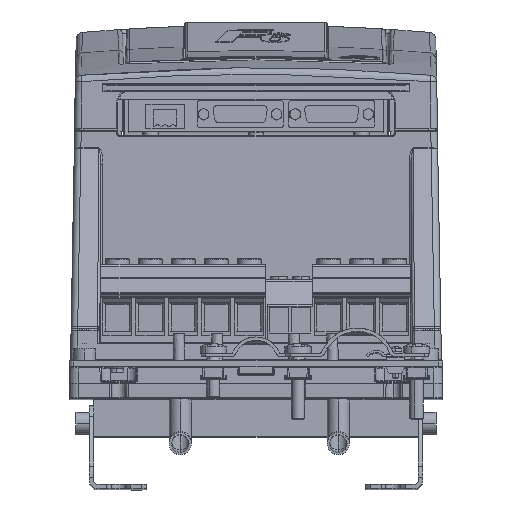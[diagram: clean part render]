
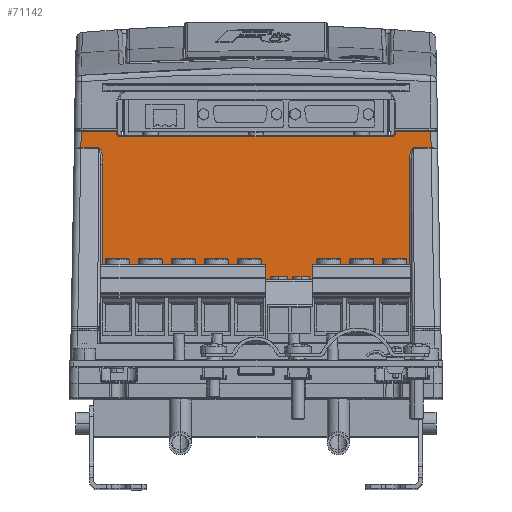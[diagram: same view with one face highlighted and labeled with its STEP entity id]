
A CAD part, top view. The second image highlights one B-rep face of the part: STEP entity #71142.
In plain terms, the highlighted planar face has unit normal (0, 0, 1).
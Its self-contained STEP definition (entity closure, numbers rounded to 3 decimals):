
#291 = ORIENTED_EDGE ( 'NONE', *, *, #23223, .T. ) ;
#407 = ORIENTED_EDGE ( 'NONE', *, *, #13771, .T. ) ;
#886 = VECTOR ( 'NONE', #52997, 1000. ) ;
#1143 = ORIENTED_EDGE ( 'NONE', *, *, #99331, .T. ) ;
#5328 = CARTESIAN_POINT ( 'NONE',  ( -62.5, 46.6, 124. ) ) ;
#5692 = LINE ( 'NONE', #72992, #55053 ) ;
#6491 = LINE ( 'NONE', #7705, #56243 ) ;
#7251 = LINE ( 'NONE', #83238, #97216 ) ;
#7599 = CARTESIAN_POINT ( 'NONE',  ( 63.5, 89.215, 124. ) ) ;
#7705 = CARTESIAN_POINT ( 'NONE',  ( -69.763, 89.215, 124. ) ) ;
#8970 = CARTESIAN_POINT ( 'NONE',  ( 69.763, 33.786, 124. ) ) ;
#9515 = VERTEX_POINT ( 'NONE', #74022 ) ;
#10559 = VECTOR ( 'NONE', #91632, 1000. ) ;
#10697 = CARTESIAN_POINT ( 'NONE',  ( -63.5, 89.215, 124. ) ) ;
#13169 = ORIENTED_EDGE ( 'NONE', *, *, #76622, .F. ) ;
#13602 = CARTESIAN_POINT ( 'NONE',  ( -69.763, 38.164, 124. ) ) ;
#13771 = EDGE_CURVE ( 'NONE', #120611, #57109, #35529, .T. ) ;
#14279 = VECTOR ( 'NONE', #19086, 1000. ) ;
#16217 = CARTESIAN_POINT ( 'NONE',  ( 49.191, 46.6, 124. ) ) ;
#17865 = LINE ( 'NONE', #45875, #14279 ) ;
#18412 = CARTESIAN_POINT ( 'NONE',  ( -79.765, 41.234, 124. ) ) ;
#18460 = DIRECTION ( 'NONE',  ( 0., 1., 0. ) ) ;
#19086 = DIRECTION ( 'NONE',  ( 1., 0., 0. ) ) ;
#19980 = FACE_OUTER_BOUND ( 'NONE', #31370, .T. ) ;
#20501 = EDGE_CURVE ( 'NONE', #93532, #88958, #17865, .T. ) ;
#22144 = CIRCLE ( 'NONE', #69888, 1. ) ;
#23025 = VERTEX_POINT ( 'NONE', #89809 ) ;
#23144 = CARTESIAN_POINT ( 'NONE',  ( 63.5, 48.6, 124. ) ) ;
#23223 = EDGE_CURVE ( 'NONE', #9515, #122111, #5692, .T. ) ;
#23440 =( BOUNDED_CURVE ( )  B_SPLINE_CURVE ( 3, ( #24191, #101336, #13602, #99506 ),
 .UNSPECIFIED., .F., .T. ) 
 B_SPLINE_CURVE_WITH_KNOTS ( ( 4, 4 ),
 ( 6.282, 7.836 ),
 .UNSPECIFIED. ) 
 CURVE ( )  GEOMETRIC_REPRESENTATION_ITEM ( )  RATIONAL_B_SPLINE_CURVE ( ( 1., 0.809, 0.809, 1. ) ) 
 REPRESENTATION_ITEM ( '' )  );
#23966 = EDGE_CURVE ( 'NONE', #27697, #44243, #6491, .T. ) ;
#24191 = CARTESIAN_POINT ( 'NONE',  ( -71.729, 41.234, 124. ) ) ;
#26539 = ORIENTED_EDGE ( 'NONE', *, *, #75743, .F. ) ;
#27697 = VERTEX_POINT ( 'NONE', #83338 ) ;
#28543 = CARTESIAN_POINT ( 'NONE',  ( -63.5, 47.6, 124. ) ) ;
#29049 = EDGE_CURVE ( 'NONE', #63767, #9515, #7251, .T. ) ;
#30535 = DIRECTION ( 'NONE',  ( 0., 0., -1. ) ) ;
#31370 = EDGE_LOOP ( 'NONE', ( #13169, #83375, #94218, #100278, #1143, #62513, #38900, #111342, #407, #26539, #98314, #102536, #291, #98636, #106940, #98246 ) ) ;
#32389 = PLANE ( 'NONE',  #118950 ) ;
#33497 = CARTESIAN_POINT ( 'NONE',  ( 62.5, 46.6, 124. ) ) ;
#35529 = LINE ( 'NONE', #16217, #98783 ) ;
#36222 = DIRECTION ( 'NONE',  ( -0.018, -1., 0. ) ) ;
#38900 = ORIENTED_EDGE ( 'NONE', *, *, #91547, .T. ) ;
#39263 = EDGE_CURVE ( 'NONE', #103516, #63767, #94783, .T. ) ;
#40978 = CARTESIAN_POINT ( 'NONE',  ( -62.5, 47.6, 124. ) ) ;
#41203 = CARTESIAN_POINT ( 'NONE',  ( 78.857, 92.127, 124. ) ) ;
#42286 = CARTESIAN_POINT ( 'NONE',  ( 79.765, 41.234, 124. ) ) ;
#43721 = VERTEX_POINT ( 'NONE', #102857 ) ;
#44001 = VERTEX_POINT ( 'NONE', #23144 ) ;
#44243 = VERTEX_POINT ( 'NONE', #104544 ) ;
#45875 = CARTESIAN_POINT ( 'NONE',  ( 79.767, 41.234, 124. ) ) ;
#45880 = DIRECTION ( 'NONE',  ( -1., 0., 0. ) ) ;
#46270 = CARTESIAN_POINT ( 'NONE',  ( 71.729, 41.234, 124. ) ) ;
#48292 = EDGE_CURVE ( 'NONE', #120611, #81538, #22144, .T. ) ;
#52936 = CARTESIAN_POINT ( 'NONE',  ( -84.5, 48.6, 124. ) ) ;
#52997 = DIRECTION ( 'NONE',  ( -0.018, 1., 0. ) ) ;
#55053 = VECTOR ( 'NONE', #36222, 1000. ) ;
#55766 = CARTESIAN_POINT ( 'NONE',  ( 69.763, -47.4, 124. ) ) ;
#56243 = VECTOR ( 'NONE', #56305, 1000. ) ;
#56305 = DIRECTION ( 'NONE',  ( 0., -1., 0. ) ) ;
#56514 = CARTESIAN_POINT ( 'NONE',  ( 63.5, 47.6, 124. ) ) ;
#56812 = DIRECTION ( 'NONE',  ( 0., 1., 0. ) ) ;
#57109 = VERTEX_POINT ( 'NONE', #5328 ) ;
#57953 = CARTESIAN_POINT ( 'NONE',  ( -84.5, 89.215, 124. ) ) ;
#58152 = CARTESIAN_POINT ( 'NONE',  ( 70.573, 41.234, 124. ) ) ;
#58279 = CARTESIAN_POINT ( 'NONE',  ( 69.763, 89.215, 124. ) ) ;
#59014 = VECTOR ( 'NONE', #69723, 1000. ) ;
#59642 = EDGE_CURVE ( 'NONE', #23025, #44001, #99593, .T. ) ;
#60305 =( BOUNDED_CURVE ( )  B_SPLINE_CURVE ( 3, ( #8970, #84941, #58152, #87375 ),
 .UNSPECIFIED., .F., .T. ) 
 B_SPLINE_CURVE_WITH_KNOTS ( ( 4, 4 ),
 ( 4.73, 6.284 ),
 .UNSPECIFIED. ) 
 CURVE ( )  GEOMETRIC_REPRESENTATION_ITEM ( )  RATIONAL_B_SPLINE_CURVE ( ( 1., 0.809, 0.809, 1. ) ) 
 REPRESENTATION_ITEM ( '' )  );
#60831 = EDGE_CURVE ( 'NONE', #43721, #93532, #60305, .T. ) ;
#60927 = DIRECTION ( 'NONE',  ( 0., -1., 0. ) ) ;
#62513 = ORIENTED_EDGE ( 'NONE', *, *, #59642, .T. ) ;
#63175 = EDGE_CURVE ( 'NONE', #122111, #106095, #70354, .T. ) ;
#63767 = VERTEX_POINT ( 'NONE', #87469 ) ;
#66031 = CIRCLE ( 'NONE', #89940, 1. ) ;
#69723 = DIRECTION ( 'NONE',  ( 1., 0., 0. ) ) ;
#69888 = AXIS2_PLACEMENT_3D ( 'NONE', #90172, #118734, #113084 ) ;
#70354 = LINE ( 'NONE', #79064, #59014 ) ;
#71142 = ADVANCED_FACE ( 'NONE', ( #19980 ), #32389, .F. ) ;
#72850 = DIRECTION ( 'NONE',  ( -1., 0., 0. ) ) ;
#72991 = LINE ( 'NONE', #91041, #10559 ) ;
#72992 = CARTESIAN_POINT ( 'NONE',  ( -78.911, 89.115, 124. ) ) ;
#74022 = CARTESIAN_POINT ( 'NONE',  ( -79.633, 48.6, 124. ) ) ;
#74500 = CARTESIAN_POINT ( 'NONE',  ( -71.729, 41.234, 124. ) ) ;
#75124 = VECTOR ( 'NONE', #60927, 1000. ) ;
#75743 = EDGE_CURVE ( 'NONE', #103516, #57109, #66031, .T. ) ;
#75984 = EDGE_CURVE ( 'NONE', #122166, #43721, #103689, .T. ) ;
#76622 = EDGE_CURVE ( 'NONE', #122166, #44243, #72991, .T. ) ;
#78959 = DIRECTION ( 'NONE',  ( -1., 0., 0. ) ) ;
#79064 = CARTESIAN_POINT ( 'NONE',  ( -71.729, 41.234, 124. ) ) ;
#81538 = VERTEX_POINT ( 'NONE', #56514 ) ;
#83238 = CARTESIAN_POINT ( 'NONE',  ( -84.5, 48.6, 124. ) ) ;
#83338 = CARTESIAN_POINT ( 'NONE',  ( -69.763, 33.786, 124. ) ) ;
#83375 = ORIENTED_EDGE ( 'NONE', *, *, #75984, .T. ) ;
#84941 = CARTESIAN_POINT ( 'NONE',  ( 69.763, 38.164, 124. ) ) ;
#87375 = CARTESIAN_POINT ( 'NONE',  ( 71.729, 41.234, 124. ) ) ;
#87469 = CARTESIAN_POINT ( 'NONE',  ( -63.5, 48.6, 124. ) ) ;
#88923 = EDGE_CURVE ( 'NONE', #106095, #27697, #23440, .T. ) ;
#88958 = VERTEX_POINT ( 'NONE', #42286 ) ;
#89809 = CARTESIAN_POINT ( 'NONE',  ( 79.633, 48.6, 124. ) ) ;
#89940 = AXIS2_PLACEMENT_3D ( 'NONE', #40978, #116852, #78959 ) ;
#90172 = CARTESIAN_POINT ( 'NONE',  ( 62.5, 47.6, 124. ) ) ;
#91041 = CARTESIAN_POINT ( 'NONE',  ( -84.5, -47.4, 124. ) ) ;
#91547 = EDGE_CURVE ( 'NONE', #44001, #81538, #92922, .T. ) ;
#91632 = DIRECTION ( 'NONE',  ( -1., 0., 0. ) ) ;
#92922 = LINE ( 'NONE', #7599, #75124 ) ;
#93532 = VERTEX_POINT ( 'NONE', #46270 ) ;
#94218 = ORIENTED_EDGE ( 'NONE', *, *, #60831, .T. ) ;
#94783 = LINE ( 'NONE', #10697, #106034 ) ;
#95930 = DIRECTION ( 'NONE',  ( -1., 0., 0. ) ) ;
#97216 = VECTOR ( 'NONE', #45880, 1000. ) ;
#98246 = ORIENTED_EDGE ( 'NONE', *, *, #23966, .T. ) ;
#98314 = ORIENTED_EDGE ( 'NONE', *, *, #39263, .T. ) ;
#98357 = VECTOR ( 'NONE', #72850, 1000. ) ;
#98636 = ORIENTED_EDGE ( 'NONE', *, *, #63175, .T. ) ;
#98783 = VECTOR ( 'NONE', #100914, 1000. ) ;
#99331 = EDGE_CURVE ( 'NONE', #88958, #23025, #117066, .T. ) ;
#99506 = CARTESIAN_POINT ( 'NONE',  ( -69.763, 33.786, 124. ) ) ;
#99593 = LINE ( 'NONE', #52936, #98357 ) ;
#100278 = ORIENTED_EDGE ( 'NONE', *, *, #20501, .T. ) ;
#100914 = DIRECTION ( 'NONE',  ( -1., 0., 0. ) ) ;
#101336 = CARTESIAN_POINT ( 'NONE',  ( -70.573, 41.234, 124. ) ) ;
#102536 = ORIENTED_EDGE ( 'NONE', *, *, #29049, .T. ) ;
#102857 = CARTESIAN_POINT ( 'NONE',  ( 69.763, 33.786, 124. ) ) ;
#103516 = VERTEX_POINT ( 'NONE', #28543 ) ;
#103689 = LINE ( 'NONE', #58279, #111757 ) ;
#104544 = CARTESIAN_POINT ( 'NONE',  ( -69.763, -47.4, 124. ) ) ;
#106034 = VECTOR ( 'NONE', #56812, 1000. ) ;
#106095 = VERTEX_POINT ( 'NONE', #74500 ) ;
#106940 = ORIENTED_EDGE ( 'NONE', *, *, #88923, .T. ) ;
#111342 = ORIENTED_EDGE ( 'NONE', *, *, #48292, .F. ) ;
#111757 = VECTOR ( 'NONE', #18460, 1000. ) ;
#113084 = DIRECTION ( 'NONE',  ( -1., 0., 0. ) ) ;
#116852 = DIRECTION ( 'NONE',  ( 0., 0., 1. ) ) ;
#117066 = LINE ( 'NONE', #41203, #886 ) ;
#118734 = DIRECTION ( 'NONE',  ( 0., 0., 1. ) ) ;
#118950 = AXIS2_PLACEMENT_3D ( 'NONE', #57953, #30535, #95930 ) ;
#120611 = VERTEX_POINT ( 'NONE', #33497 ) ;
#122111 = VERTEX_POINT ( 'NONE', #18412 ) ;
#122166 = VERTEX_POINT ( 'NONE', #55766 ) ;
